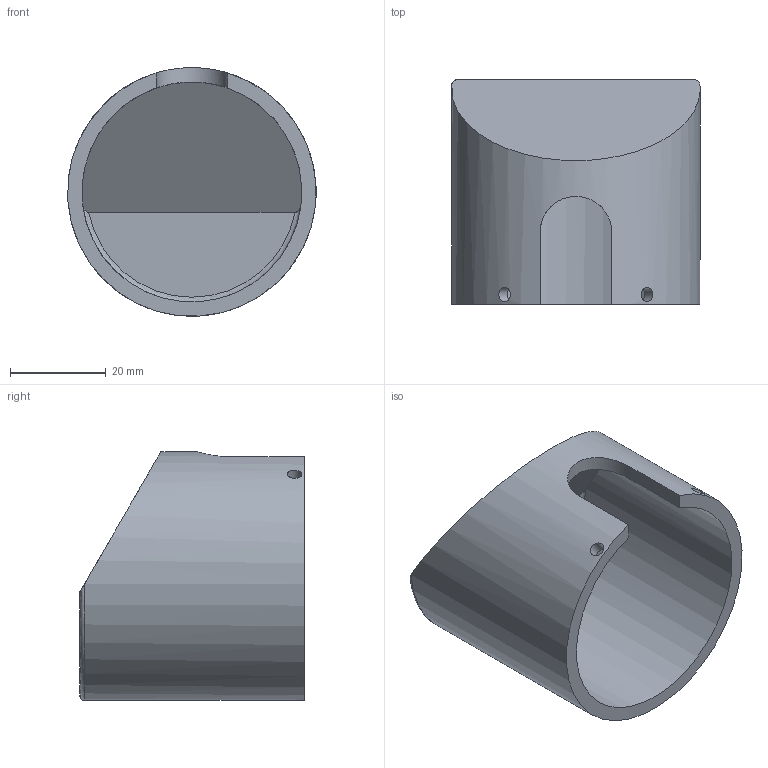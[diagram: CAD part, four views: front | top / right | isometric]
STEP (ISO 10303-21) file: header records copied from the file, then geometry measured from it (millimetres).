
FILE_DESCRIPTION(/* description */ ('STEP AP203'),/* implementation_level */ '2;1');
FILE_NAME(/* name */ 'E43910',/* time_stamp */ '2022-12-14T11:45:39+01:00',/* author */ ('License CC BY-ND 4.0'),/* organization */ ('CADENAS'),/* preprocessor_version */ 'ST-DEVELOPER v18.102',/* originating_system */ 'PARTsolutions',/* authorisation */ ' ');
FILE_SCHEMA (('CONFIG_CONTROL_DESIGN'));
Length unit declared in the file: millimetre
Products named in the file (1): E43910
Bounding box: 51.94 x 47 x 52 mm (x, y, z)
Volume: 23597.6 mm3; surface area: 16338.4 mm2
Topology: 1 solids, 1 shells, 14 faces, 34 edges, 22 vertices
Faces by surface type: plane 7, cylinder 5, torus 2
Full cylindrical faces by diameter (mm): 3 x2, 46 x1, 52 x1
Entity records: 469 total; most frequent: CARTESIAN_POINT 142, ORIENTED_EDGE 56, DIRECTION 56, EDGE_CURVE 28, AXIS2_PLACEMENT_3D 23, EDGE_LOOP 22, FACE_BOUND 22, VERTEX_POINT 20
